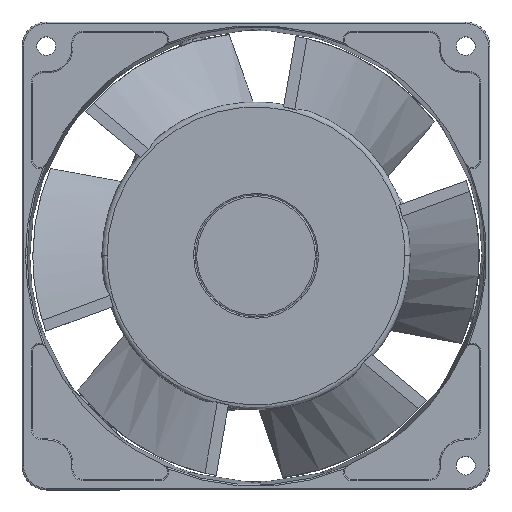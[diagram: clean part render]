
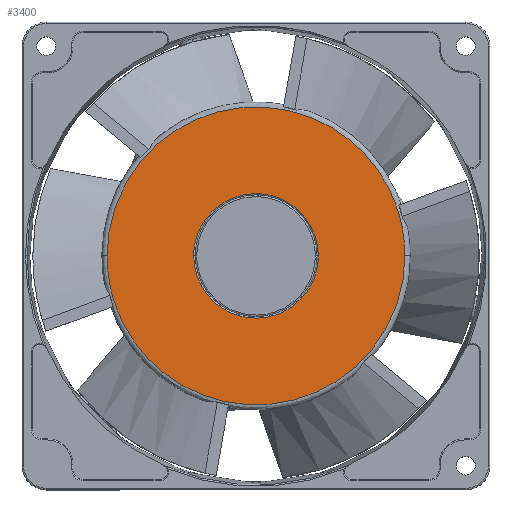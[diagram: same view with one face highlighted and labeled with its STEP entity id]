
A CAD part, top view. The second image highlights one B-rep face of the part: STEP entity #3400.
In plain terms, the highlighted planar face has unit normal (0, 0, 1).
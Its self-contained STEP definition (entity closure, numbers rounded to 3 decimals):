
#3400 = ADVANCED_FACE ( 'NONE', ( #18334, #9955 ), #30247, .F. ) ;
#4550 = CARTESIAN_POINT ( 'NONE',  ( -29.3, 0., 24.755 ) ) ;
#4668 = CARTESIAN_POINT ( 'NONE',  ( 29.3, 58.6, 24.755 ) ) ;
#4940 = EDGE_LOOP ( 'NONE', ( #35792, #11146 ) ) ;
#4961 = DIRECTION ( 'NONE',  ( -1., 0., 0. ) ) ;
#5256 = ORIENTED_EDGE ( 'NONE', *, *, #9177, .F. ) ;
#6146 = AXIS2_PLACEMENT_3D ( 'NONE', #33084, #21895, #4961 ) ;
#6665 = CARTESIAN_POINT ( 'NONE',  ( 29.3, -58.6, 24.755 ) ) ;
#7348 = CARTESIAN_POINT ( 'NONE',  ( -12.25, 0., 24.755 ) ) ;
#9177 = EDGE_CURVE ( 'NONE', #20272, #24445, #16931, .T. ) ;
#9505 = CARTESIAN_POINT ( 'NONE',  ( -29.3, 0., 24.755 ) ) ;
#9955 = FACE_BOUND ( 'NONE', #4940, .T. ) ;
#10588 =( BOUNDED_CURVE ( )  B_SPLINE_CURVE ( 3, ( #13631, #33381, #36206, #19333 ),
 .UNSPECIFIED., .F., .F. ) 
 B_SPLINE_CURVE_WITH_KNOTS ( ( 4, 4 ),
 ( 0., 1. ),
 .UNSPECIFIED. ) 
 CURVE ( )  GEOMETRIC_REPRESENTATION_ITEM ( )  RATIONAL_B_SPLINE_CURVE ( ( 1., 0.333, 0.333, 1. ) ) 
 REPRESENTATION_ITEM ( '' )  );
#11146 = ORIENTED_EDGE ( 'NONE', *, *, #19165, .F. ) ;
#11829 = CARTESIAN_POINT ( 'NONE',  ( 12.25, 0., 24.755 ) ) ;
#13631 = CARTESIAN_POINT ( 'NONE',  ( -12.25, 0., 24.755 ) ) ;
#14152 = CARTESIAN_POINT ( 'NONE',  ( -12.25, 0., 24.755 ) ) ;
#15892 = CARTESIAN_POINT ( 'NONE',  ( -29.3, 58.6, 24.755 ) ) ;
#16931 =( BOUNDED_CURVE ( )  B_SPLINE_CURVE ( 3, ( #26419, #6665, #23584, #9505 ),
 .UNSPECIFIED., .F., .F. ) 
 B_SPLINE_CURVE_WITH_KNOTS ( ( 4, 4 ),
 ( 0., 1. ),
 .UNSPECIFIED. ) 
 CURVE ( )  GEOMETRIC_REPRESENTATION_ITEM ( )  RATIONAL_B_SPLINE_CURVE ( ( 1., 0.333, 0.333, 1. ) ) 
 REPRESENTATION_ITEM ( '' )  );
#17137 =( BOUNDED_CURVE ( )  B_SPLINE_CURVE ( 3, ( #24295, #35461, #24171, #7348 ),
 .UNSPECIFIED., .F., .F. ) 
 B_SPLINE_CURVE_WITH_KNOTS ( ( 4, 4 ),
 ( 0., 1. ),
 .UNSPECIFIED. ) 
 CURVE ( )  GEOMETRIC_REPRESENTATION_ITEM ( )  RATIONAL_B_SPLINE_CURVE ( ( 1., 0.333, 0.333, 1. ) ) 
 REPRESENTATION_ITEM ( '' )  );
#18334 = FACE_OUTER_BOUND ( 'NONE', #31216, .T. ) ;
#19165 = EDGE_CURVE ( 'NONE', #19778, #32393, #17137, .T. ) ;
#19333 = CARTESIAN_POINT ( 'NONE',  ( 12.25, 0., 24.755 ) ) ;
#19778 = VERTEX_POINT ( 'NONE', #11829 ) ;
#20272 = VERTEX_POINT ( 'NONE', #33259 ) ;
#20325 = EDGE_CURVE ( 'NONE', #32393, #19778, #10588, .T. ) ;
#21895 = DIRECTION ( 'NONE',  ( 0., 0., -1. ) ) ;
#23584 = CARTESIAN_POINT ( 'NONE',  ( -29.3, -58.6, 24.755 ) ) ;
#24171 = CARTESIAN_POINT ( 'NONE',  ( -12.25, 24.5, 24.755 ) ) ;
#24295 = CARTESIAN_POINT ( 'NONE',  ( 12.25, 0., 24.755 ) ) ;
#24445 = VERTEX_POINT ( 'NONE', #28023 ) ;
#24446 = CARTESIAN_POINT ( 'NONE',  ( 29.3, 0., 24.755 ) ) ;
#26419 = CARTESIAN_POINT ( 'NONE',  ( 29.3, 0., 24.755 ) ) ;
#28023 = CARTESIAN_POINT ( 'NONE',  ( -29.3, 0., 24.755 ) ) ;
#29679 = ORIENTED_EDGE ( 'NONE', *, *, #31060, .F. ) ;
#30247 = PLANE ( 'NONE',  #6146 ) ;
#31060 = EDGE_CURVE ( 'NONE', #24445, #20272, #35654, .T. ) ;
#31216 = EDGE_LOOP ( 'NONE', ( #5256, #29679 ) ) ;
#32393 = VERTEX_POINT ( 'NONE', #14152 ) ;
#33084 = CARTESIAN_POINT ( 'NONE',  ( 0., 0., 24.755 ) ) ;
#33259 = CARTESIAN_POINT ( 'NONE',  ( 29.3, 0., 24.755 ) ) ;
#33381 = CARTESIAN_POINT ( 'NONE',  ( -12.25, -24.5, 24.755 ) ) ;
#35461 = CARTESIAN_POINT ( 'NONE',  ( 12.25, 24.5, 24.755 ) ) ;
#35654 =( BOUNDED_CURVE ( )  B_SPLINE_CURVE ( 3, ( #4550, #15892, #4668, #24446 ),
 .UNSPECIFIED., .F., .F. ) 
 B_SPLINE_CURVE_WITH_KNOTS ( ( 4, 4 ),
 ( 0., 1. ),
 .UNSPECIFIED. ) 
 CURVE ( )  GEOMETRIC_REPRESENTATION_ITEM ( )  RATIONAL_B_SPLINE_CURVE ( ( 1., 0.333, 0.333, 1. ) ) 
 REPRESENTATION_ITEM ( '' )  );
#35792 = ORIENTED_EDGE ( 'NONE', *, *, #20325, .F. ) ;
#36206 = CARTESIAN_POINT ( 'NONE',  ( 12.25, -24.5, 24.755 ) ) ;
